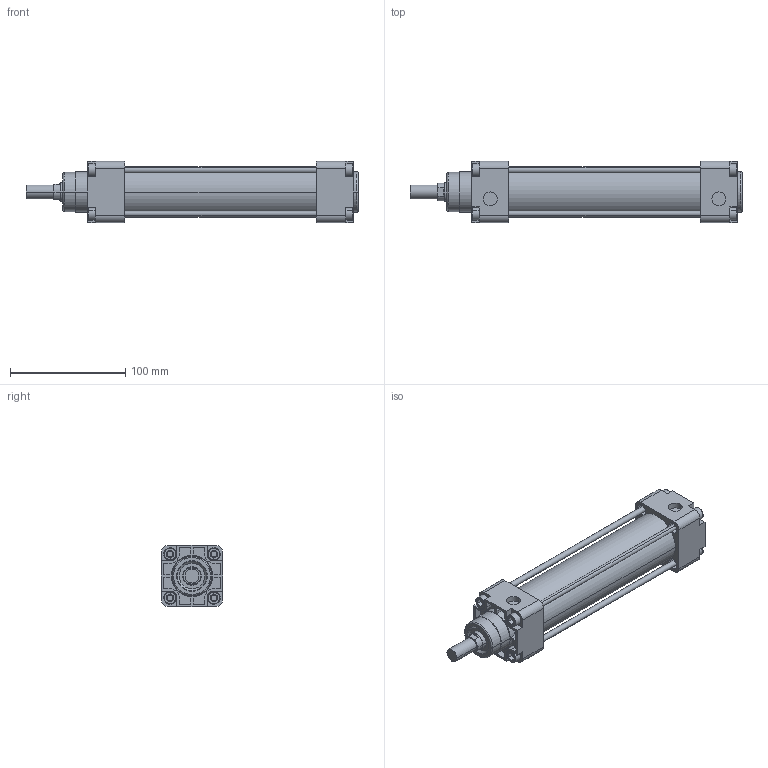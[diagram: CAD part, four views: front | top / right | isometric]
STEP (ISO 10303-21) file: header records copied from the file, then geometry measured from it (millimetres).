
FILE_DESCRIPTION(('CATIA V5 STEP Exchange'),'2;1');
FILE_NAME('D:\stp file for catalog\PNC\40\PNC 40-16-125.stp','2015-05-25T08:22:10+00:00',('none'),('none'),'Version 5-6 Release 2012','CATIA V5 STEP AP203','none');
FILE_SCHEMA(('CONFIG_CONTROL_DESIGN'));
Length unit declared in the file: millimetre
Products named in the file (1): PNC 40-16-125-00
Assembly tree (2 placements, depth 2):
  PNC 40-16-125-00
    #58
    #14775
Bounding box: 287.5 x 53 x 53 mm (x, y, z)
Volume: 316579 mm3; surface area: 120745.3 mm2
Topology: 2 solids, 2 shells, 562 faces, 1417 edges, 920 vertices
Faces by surface type: plane 352, cylinder 158, torus 26, cone 18, extrusion 8
Entity records: 15204 total; most frequent: CARTESIAN_POINT 2889, ORIENTED_EDGE 2834, DIRECTION 1905, EDGE_CURVE 1417, VERTEX_POINT 920, VECTOR 877, LINE 869, AXIS2_PLACEMENT_3D 764
